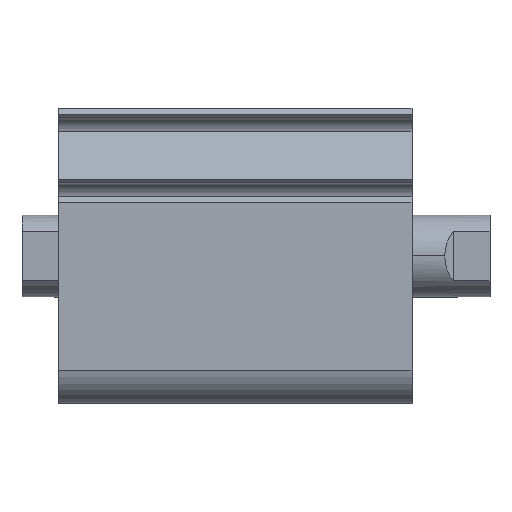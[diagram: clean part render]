
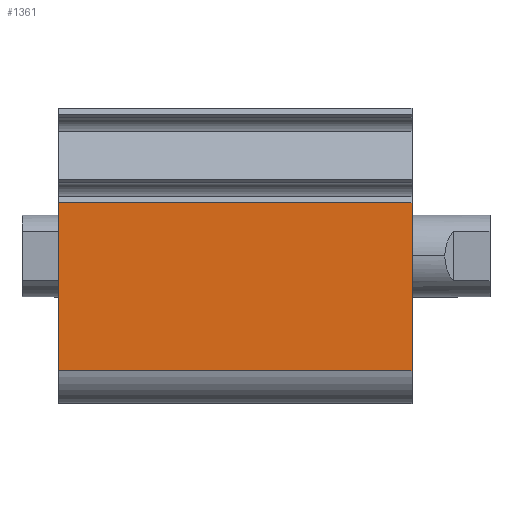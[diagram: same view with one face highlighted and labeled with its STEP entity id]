
A CAD part, top view. The second image highlights one B-rep face of the part: STEP entity #1361.
In plain terms, the highlighted planar face has unit normal (0, 0, 1).
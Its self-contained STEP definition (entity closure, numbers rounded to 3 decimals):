
#298 = CARTESIAN_POINT ( 'NONE',  ( 43., 6.466, 18. ) ) ;
#355 = PLANE ( 'NONE',  #3160 ) ;
#445 = VECTOR ( 'NONE', #1561, 1000. ) ;
#540 = VERTEX_POINT ( 'NONE', #298 ) ;
#608 = CARTESIAN_POINT ( 'NONE',  ( 43., -13.98, 18. ) ) ;
#656 = EDGE_CURVE ( 'NONE', #540, #1603, #2542, .T. ) ;
#757 = LINE ( 'NONE', #1820, #445 ) ;
#760 = EDGE_CURVE ( 'NONE', #540, #1480, #3374, .T. ) ;
#1002 = CARTESIAN_POINT ( 'NONE',  ( 0., -13.98, 18. ) ) ;
#1007 = CARTESIAN_POINT ( 'NONE',  ( 43., 6.466, 18. ) ) ;
#1090 = DIRECTION ( 'NONE',  ( 0., -1., 0. ) ) ;
#1145 = VERTEX_POINT ( 'NONE', #1002 ) ;
#1264 = EDGE_CURVE ( 'NONE', #1603, #1145, #1594, .T. ) ;
#1319 = ORIENTED_EDGE ( 'NONE', *, *, #760, .F. ) ;
#1361 = ADVANCED_FACE ( 'NONE', ( #2431 ), #355, .F. ) ;
#1413 = DIRECTION ( 'NONE',  ( 0., 0., -1. ) ) ;
#1480 = VERTEX_POINT ( 'NONE', #608 ) ;
#1544 = DIRECTION ( 'NONE',  ( 0., -1., 0. ) ) ;
#1555 = ORIENTED_EDGE ( 'NONE', *, *, #2191, .F. ) ;
#1561 = DIRECTION ( 'NONE',  ( -1., 0., 0. ) ) ;
#1594 = LINE ( 'NONE', #1613, #2496 ) ;
#1603 = VERTEX_POINT ( 'NONE', #2276 ) ;
#1613 = CARTESIAN_POINT ( 'NONE',  ( 0., 6.466, 18. ) ) ;
#1670 = ORIENTED_EDGE ( 'NONE', *, *, #656, .T. ) ;
#1680 = DIRECTION ( 'NONE',  ( 0., -1., 0. ) ) ;
#1690 = ORIENTED_EDGE ( 'NONE', *, *, #1264, .T. ) ;
#1820 = CARTESIAN_POINT ( 'NONE',  ( 43., -13.98, 18. ) ) ;
#1847 = VECTOR ( 'NONE', #1544, 1000. ) ;
#1941 = CARTESIAN_POINT ( 'NONE',  ( 43., 6.466, 18. ) ) ;
#2191 = EDGE_CURVE ( 'NONE', #1480, #1145, #757, .T. ) ;
#2276 = CARTESIAN_POINT ( 'NONE',  ( 0., 6.466, 18. ) ) ;
#2431 = FACE_OUTER_BOUND ( 'NONE', #2590, .T. ) ;
#2496 = VECTOR ( 'NONE', #1090, 1000. ) ;
#2542 = LINE ( 'NONE', #3090, #3049 ) ;
#2590 = EDGE_LOOP ( 'NONE', ( #1690, #1555, #1319, #1670 ) ) ;
#2833 = DIRECTION ( 'NONE',  ( -1., 0., 0. ) ) ;
#3049 = VECTOR ( 'NONE', #2833, 1000. ) ;
#3090 = CARTESIAN_POINT ( 'NONE',  ( 43., 6.466, 18. ) ) ;
#3160 = AXIS2_PLACEMENT_3D ( 'NONE', #1941, #1413, #1680 ) ;
#3374 = LINE ( 'NONE', #1007, #1847 ) ;
